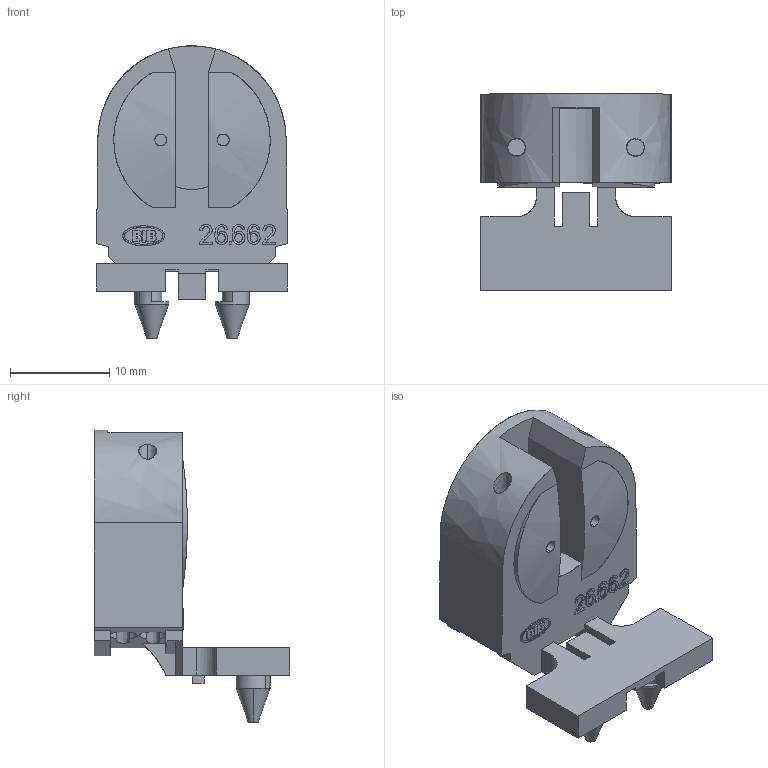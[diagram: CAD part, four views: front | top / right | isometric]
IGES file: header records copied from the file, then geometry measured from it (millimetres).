
Global section: file name: C:\coretechnologie2011\in/00TY50BY05.igs; native system: CT CoreTechnologie 3D Evolution; preprocessor: 2006; author: assmuth; date: 1110725.075126; units: millimetre
Bounding box: 19.25 x 19.75 x 29.48 mm (x, y, z)
Surface area: 2612.3 mm2 (no closed solid volume)
Topology: 0 solids, 0 shells, 261 faces, 1412 edges, 1412 vertices
Faces by surface type: bspline 261
